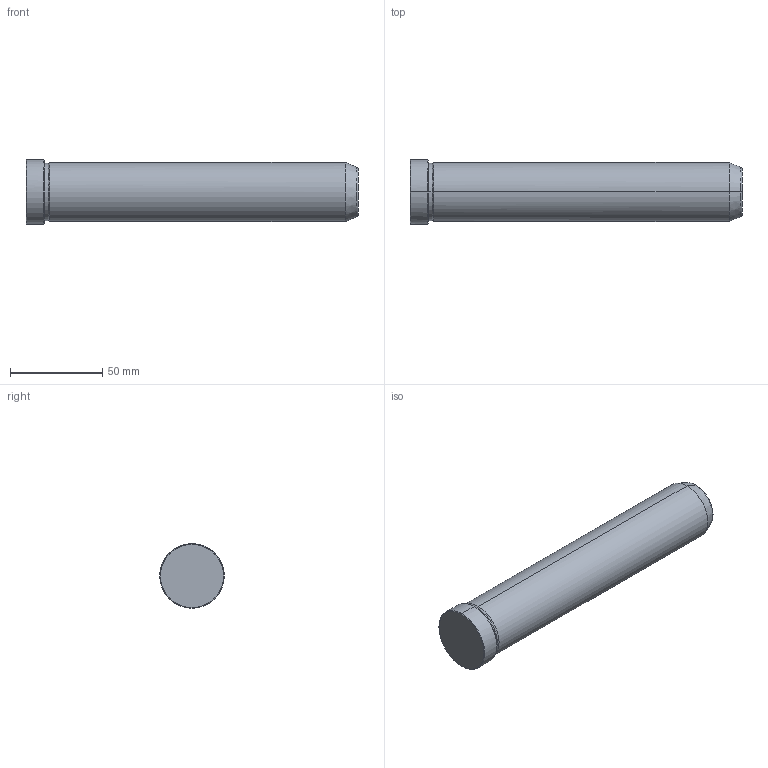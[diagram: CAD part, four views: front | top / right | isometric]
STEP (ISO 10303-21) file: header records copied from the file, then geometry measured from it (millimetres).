
FILE_DESCRIPTION(('CATIA V5 STEP Exchange'),'2;1');
FILE_NAME('C:\Users\Utente\Desktop\IO LAVORO\3D X SITO CF\X SITO\PLASTICA\549\549-32X180.stp','2021-12-18T08:06:05+00:00',('none'),('none'),'CATIA Version 5 Release 20 GA (IN-10)','CATIA V5 STEP AP203','none');
FILE_SCHEMA(('CONFIG_CONTROL_DESIGN'));
Length unit declared in the file: millimetre
Products named in the file (1): 549-32X180
Bounding box: 180 x 35 x 35 mm (x, y, z)
Volume: 145269.8 mm3; surface area: 19845.6 mm2
Topology: 1 solids, 1 shells, 19 faces, 56 edges, 40 vertices
Faces by surface type: cone 8, cylinder 6, plane 3, torus 2
Entity records: 736 total; most frequent: CARTESIAN_POINT 192, ORIENTED_EDGE 112, DIRECTION 86, EDGE_CURVE 56, AXIS2_PLACEMENT_3D 54, VERTEX_POINT 40, CIRCLE 34, EDGE_LOOP 20
